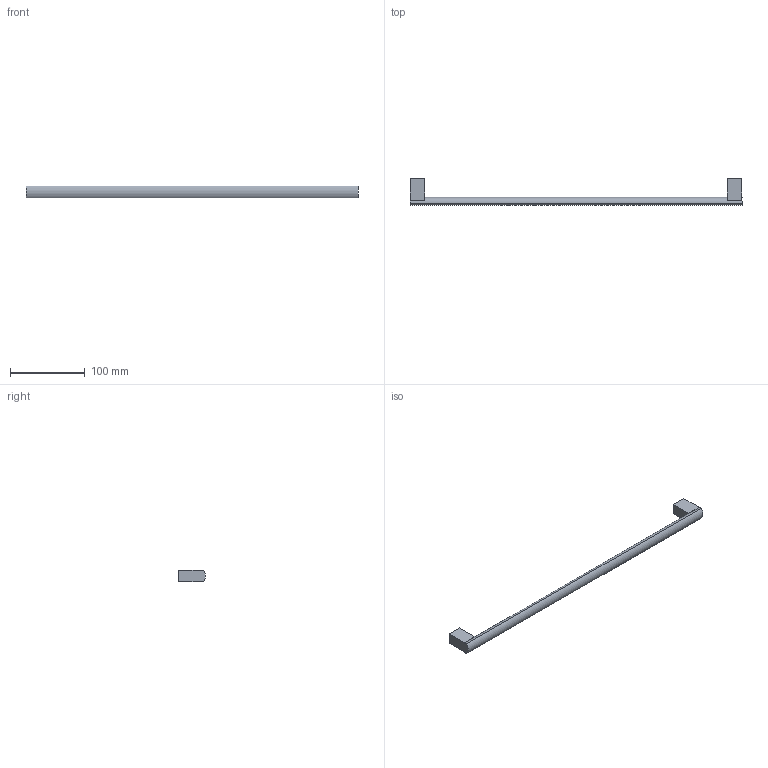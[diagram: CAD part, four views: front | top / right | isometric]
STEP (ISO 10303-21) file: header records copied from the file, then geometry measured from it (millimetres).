
FILE_DESCRIPTION( ( 'STEP AP214' ), '1' );
FILE_NAME( 'D:/Shahbaz D&D/Task/Check and correct handles with 3 drill sockets/Clivia/115360.stp', '2023-02-20T10:53:34', ( '' ), ( '' ), ' ', 'PARTsolutions', ' ' );
FILE_SCHEMA( ( 'AUTOMOTIVE_DESIGN { 1 0 10303 214 1 1 1 1 }' ) );
Length unit declared in the file: millimetre
Products named in the file (1): _115360
Bounding box: 444 x 35.96 x 16 mm (x, y, z)
Volume: 74862.5 mm3; surface area: 23257.5 mm2
Topology: 1 solids, 1 shells, 21 faces, 48 edges, 32 vertices
Faces by surface type: plane 17, cylinder 4
Full cylindrical faces by diameter (mm): 4 x2
Entity records: 768 total; most frequent: DIRECTION 102, CARTESIAN_POINT 100, ORIENTED_EDGE 92, EDGE_CURVE 46, AXIS2_PLACEMENT_3D 34, LINE 34, VECTOR 34, VERTEX_POINT 32
